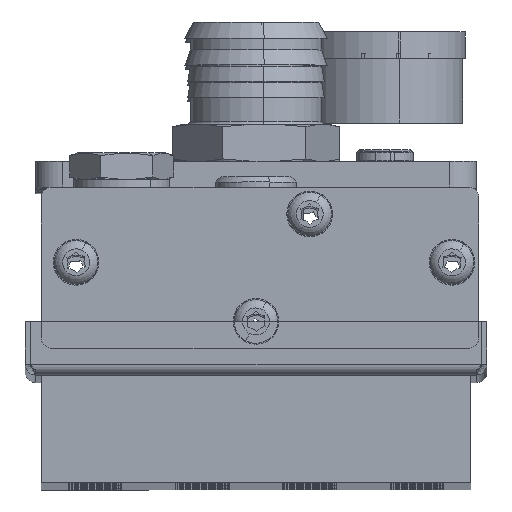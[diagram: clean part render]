
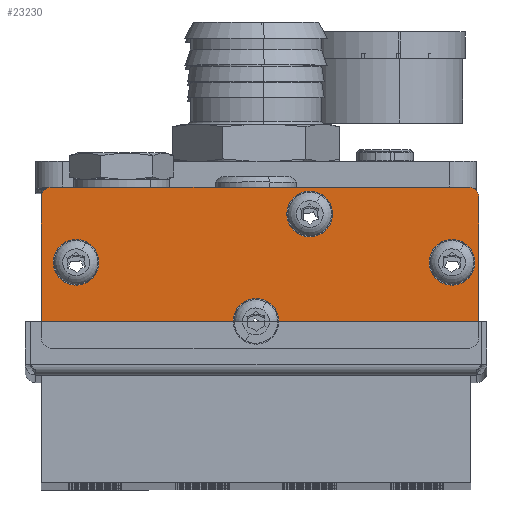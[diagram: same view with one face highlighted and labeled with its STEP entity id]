
A CAD part, top view. The second image highlights one B-rep face of the part: STEP entity #23230.
In plain terms, the highlighted planar face has unit normal (0, 0, 1).
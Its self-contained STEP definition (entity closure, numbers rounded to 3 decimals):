
#17967 = CARTESIAN_POINT ( 'NONE',  ( -7.736, 48.338, 382.07 ) ) ;
#18008 = CARTESIAN_POINT ( 'NONE',  ( 28.014, 51.338, 382.07 ) ) ;
#18217 = CARTESIAN_POINT ( 'NONE',  ( 0.764, 48.338, 382.07 ) ) ;
#18241 = DIRECTION ( 'NONE',  ( 0., 0., 1. ) ) ;
#18242 = AXIS2_PLACEMENT_3D ( 'NONE', #18361, #18241, #18436 ) ;
#18243 = CIRCLE ( 'NONE', #18242, 2. ) ;
#18361 = CARTESIAN_POINT ( 'NONE',  ( -51.486, 51.338, 382.07 ) ) ;
#18436 = DIRECTION ( 'NONE',  ( -1., 0., 0. ) ) ;
#18456 = CARTESIAN_POINT ( 'NONE',  ( -42.736, 39.338, 382.07 ) ) ;
#18457 = CARTESIAN_POINT ( 'NONE',  ( 28.014, 25.338, 382.07 ) ) ;
#18459 = CARTESIAN_POINT ( 'NONE',  ( -53.486, 51.338, 382.07 ) ) ;
#18462 = CARTESIAN_POINT ( 'NONE',  ( -53.486, 25.338, 382.07 ) ) ;
#18517 = CARTESIAN_POINT ( 'NONE',  ( 18.764, 39.338, 382.07 ) ) ;
#18566 = CIRCLE ( 'NONE', #18760, 4.25 ) ;
#18632 = FACE_OUTER_BOUND ( 'NONE', #23097, .T. ) ;
#18633 = FACE_BOUND ( 'NONE', #23094, .T. ) ;
#18634 = FACE_BOUND ( 'NONE', #23237, .T. ) ;
#18647 = DIRECTION ( 'NONE',  ( -1., 0., 0. ) ) ;
#18655 = DIRECTION ( 'NONE',  ( 1., 0., 0. ) ) ;
#18657 = DIRECTION ( 'NONE',  ( 0., 0., 1. ) ) ;
#18658 = CARTESIAN_POINT ( 'NONE',  ( -46.986, 39.338, 382.07 ) ) ;
#18709 = AXIS2_PLACEMENT_3D ( 'NONE', #18658, #18657, #18655 ) ;
#18711 = CIRCLE ( 'NONE', #18709, 4.25 ) ;
#18718 = CARTESIAN_POINT ( 'NONE',  ( -51.236, 39.338, 382.07 ) ) ;
#18756 = CARTESIAN_POINT ( 'NONE',  ( 27.264, 39.338, 382.07 ) ) ;
#18757 = DIRECTION ( 'NONE',  ( 1., 0., 0. ) ) ;
#18758 = DIRECTION ( 'NONE',  ( 0., 0., 1. ) ) ;
#18759 = CARTESIAN_POINT ( 'NONE',  ( 23.014, 39.338, 382.07 ) ) ;
#18760 = AXIS2_PLACEMENT_3D ( 'NONE', #18759, #18758, #18757 ) ;
#18763 = VECTOR ( 'NONE', #18647, 1000. ) ;
#18764 = CARTESIAN_POINT ( 'NONE',  ( -51.486, 53.338, 382.07 ) ) ;
#18766 = LINE ( 'NONE', #18764, #18763 ) ;
#18771 = CARTESIAN_POINT ( 'NONE',  ( -51.486, 53.338, 382.07 ) ) ;
#18781 = DIRECTION ( 'NONE',  ( 1., 0., 0. ) ) ;
#18782 = DIRECTION ( 'NONE',  ( 0., 0., 1. ) ) ;
#18783 = CARTESIAN_POINT ( 'NONE',  ( -13.486, 28.338, 382.07 ) ) ;
#18784 = AXIS2_PLACEMENT_3D ( 'NONE', #18783, #18782, #18781 ) ;
#18785 = CIRCLE ( 'NONE', #18784, 4.25 ) ;
#18786 = CARTESIAN_POINT ( 'NONE',  ( -9.236, 28.338, 382.07 ) ) ;
#18787 = CARTESIAN_POINT ( 'NONE',  ( -17.736, 28.338, 382.07 ) ) ;
#18827 = FACE_BOUND ( 'NONE', #23231, .T. ) ;
#18829 = FACE_BOUND ( 'NONE', #23234, .T. ) ;
#18831 = DIRECTION ( 'NONE',  ( -1., 0., 0. ) ) ;
#18832 = DIRECTION ( 'NONE',  ( 0., 0., -1. ) ) ;
#18833 = CARTESIAN_POINT ( 'NONE',  ( -51.486, 51.338, 382.07 ) ) ;
#18834 = AXIS2_PLACEMENT_3D ( 'NONE', #18833, #18832, #18831 ) ;
#18838 = PLANE ( 'NONE',  #18834 ) ;
#18908 = DIRECTION ( 'NONE',  ( 1., 0., 0. ) ) ;
#18909 = DIRECTION ( 'NONE',  ( 0., 0., 1. ) ) ;
#18910 = AXIS2_PLACEMENT_3D ( 'NONE', #18937, #18909, #18908 ) ;
#18911 = CIRCLE ( 'NONE', #18910, 4.25 ) ;
#18924 = DIRECTION ( 'NONE',  ( 1., 0., 0. ) ) ;
#18925 = DIRECTION ( 'NONE',  ( 0., 0., 1. ) ) ;
#18926 = CARTESIAN_POINT ( 'NONE',  ( 26.014, 51.338, 382.07 ) ) ;
#18927 = AXIS2_PLACEMENT_3D ( 'NONE', #18926, #18925, #18924 ) ;
#18928 = CIRCLE ( 'NONE', #18927, 2. ) ;
#18937 = CARTESIAN_POINT ( 'NONE',  ( -3.486, 48.338, 382.07 ) ) ;
#18962 = DIRECTION ( 'NONE',  ( 0., -1., 0. ) ) ;
#18963 = VECTOR ( 'NONE', #18962, 1000. ) ;
#18964 = CARTESIAN_POINT ( 'NONE',  ( -53.486, 51.338, 382.07 ) ) ;
#18965 = LINE ( 'NONE', #18964, #18963 ) ;
#18966 = DIRECTION ( 'NONE',  ( 0., 1., 0. ) ) ;
#18967 = VECTOR ( 'NONE', #18966, 1000. ) ;
#18968 = CARTESIAN_POINT ( 'NONE',  ( 28.014, 51.338, 382.07 ) ) ;
#18969 = LINE ( 'NONE', #18968, #18967 ) ;
#19018 = DIRECTION ( 'NONE',  ( 1., 0., 0. ) ) ;
#19019 = DIRECTION ( 'NONE',  ( 0., 0., 1. ) ) ;
#19020 = CARTESIAN_POINT ( 'NONE',  ( -46.986, 39.338, 382.07 ) ) ;
#19021 = AXIS2_PLACEMENT_3D ( 'NONE', #19020, #19019, #19018 ) ;
#19022 = CIRCLE ( 'NONE', #19021, 4.25 ) ;
#19027 = CARTESIAN_POINT ( 'NONE',  ( 26.014, 53.338, 382.07 ) ) ;
#19036 = DIRECTION ( 'NONE',  ( 1., 0., 0. ) ) ;
#19037 = DIRECTION ( 'NONE',  ( 0., 0., 1. ) ) ;
#19038 = CARTESIAN_POINT ( 'NONE',  ( -3.486, 48.338, 382.07 ) ) ;
#19039 = AXIS2_PLACEMENT_3D ( 'NONE', #19038, #19037, #19036 ) ;
#19040 = CIRCLE ( 'NONE', #19039, 4.25 ) ;
#19150 = DIRECTION ( 'NONE',  ( 1., 0., 0. ) ) ;
#19152 = DIRECTION ( 'NONE',  ( 0., 0., 1. ) ) ;
#19153 = CARTESIAN_POINT ( 'NONE',  ( 23.014, 39.338, 382.07 ) ) ;
#19155 = AXIS2_PLACEMENT_3D ( 'NONE', #19153, #19152, #19150 ) ;
#19156 = CIRCLE ( 'NONE', #19155, 4.25 ) ;
#19178 = DIRECTION ( 'NONE',  ( 1., 0., 0. ) ) ;
#19180 = DIRECTION ( 'NONE',  ( 0., 0., 1. ) ) ;
#19181 = CARTESIAN_POINT ( 'NONE',  ( 26.014, 25.338, 382.07 ) ) ;
#19183 = AXIS2_PLACEMENT_3D ( 'NONE', #19181, #19180, #19178 ) ;
#19184 = CIRCLE ( 'NONE', #19183, 2. ) ;
#19271 = DIRECTION ( 'NONE',  ( 1., 0., 0. ) ) ;
#19272 = DIRECTION ( 'NONE',  ( 0., 0., 1. ) ) ;
#19274 = CARTESIAN_POINT ( 'NONE',  ( -13.486, 28.338, 382.07 ) ) ;
#19275 = AXIS2_PLACEMENT_3D ( 'NONE', #19274, #19272, #19271 ) ;
#19276 = CIRCLE ( 'NONE', #19275, 4.25 ) ;
#19282 = DIRECTION ( 'NONE',  ( 1., 0., 0. ) ) ;
#19283 = VECTOR ( 'NONE', #19282, 1000. ) ;
#19284 = CARTESIAN_POINT ( 'NONE',  ( -51.486, 23.338, 382.07 ) ) ;
#19286 = LINE ( 'NONE', #19284, #19283 ) ;
#19388 = DIRECTION ( 'NONE',  ( -1., 0., 0. ) ) ;
#19390 = DIRECTION ( 'NONE',  ( 0., 0., 1. ) ) ;
#19392 = CARTESIAN_POINT ( 'NONE',  ( -51.486, 25.338, 382.07 ) ) ;
#19394 = AXIS2_PLACEMENT_3D ( 'NONE', #19392, #19390, #19388 ) ;
#19395 = CIRCLE ( 'NONE', #19394, 2. ) ;
#19448 = CARTESIAN_POINT ( 'NONE',  ( 26.014, 23.338, 382.07 ) ) ;
#19490 = CARTESIAN_POINT ( 'NONE',  ( -51.486, 23.338, 382.07 ) ) ;
#23094 = EDGE_LOOP ( 'NONE', ( #23095, #23096 ) ) ;
#23095 = ORIENTED_EDGE ( 'NONE', *, *, #23382, .F. ) ;
#23096 = ORIENTED_EDGE ( 'NONE', *, *, #23290, .F. ) ;
#23097 = EDGE_LOOP ( 'NONE', ( #23098, #23099, #23385, #23398, #23366, #23400, #23387, #23388 ) ) ;
#23098 = ORIENTED_EDGE ( 'NONE', *, *, #23157, .T. ) ;
#23099 = ORIENTED_EDGE ( 'NONE', *, *, #23352, .T. ) ;
#23126 = VERTEX_POINT ( 'NONE', #18008 ) ;
#23136 = VERTEX_POINT ( 'NONE', #17967 ) ;
#23157 = EDGE_CURVE ( 'NONE', #23246, #23169, #18243, .T. ) ;
#23168 = VERTEX_POINT ( 'NONE', #18462 ) ;
#23169 = VERTEX_POINT ( 'NONE', #18459 ) ;
#23171 = VERTEX_POINT ( 'NONE', #18457 ) ;
#23172 = VERTEX_POINT ( 'NONE', #18456 ) ;
#23183 = VERTEX_POINT ( 'NONE', #18217 ) ;
#23225 = VERTEX_POINT ( 'NONE', #18517 ) ;
#23230 = ADVANCED_FACE ( 'NONE', ( #18827, #18829, #18634, #18633, #18632 ), #18838, .F. ) ;
#23231 = EDGE_LOOP ( 'NONE', ( #23232, #23233 ) ) ;
#23232 = ORIENTED_EDGE ( 'NONE', *, *, #23326, .F. ) ;
#23233 = ORIENTED_EDGE ( 'NONE', *, *, #23275, .F. ) ;
#23234 = EDGE_LOOP ( 'NONE', ( #23235, #23236 ) ) ;
#23235 = ORIENTED_EDGE ( 'NONE', *, *, #23318, .F. ) ;
#23236 = ORIENTED_EDGE ( 'NONE', *, *, #23346, .F. ) ;
#23237 = EDGE_LOOP ( 'NONE', ( #23238, #23239 ) ) ;
#23238 = ORIENTED_EDGE ( 'NONE', *, *, #23403, .F. ) ;
#23239 = ORIENTED_EDGE ( 'NONE', *, *, #23261, .F. ) ;
#23246 = VERTEX_POINT ( 'NONE', #18771 ) ;
#23248 = EDGE_CURVE ( 'NONE', #23310, #23246, #18766, .T. ) ;
#23259 = VERTEX_POINT ( 'NONE', #18787 ) ;
#23261 = EDGE_CURVE ( 'NONE', #23259, #23262, #18785, .T. ) ;
#23262 = VERTEX_POINT ( 'NONE', #18786 ) ;
#23273 = VERTEX_POINT ( 'NONE', #18718 ) ;
#23275 = EDGE_CURVE ( 'NONE', #23273, #23172, #18711, .T. ) ;
#23290 = EDGE_CURVE ( 'NONE', #23225, #23291, #18566, .T. ) ;
#23291 = VERTEX_POINT ( 'NONE', #18756 ) ;
#23310 = VERTEX_POINT ( 'NONE', #19027 ) ;
#23312 = EDGE_CURVE ( 'NONE', #23126, #23310, #18928, .T. ) ;
#23318 = EDGE_CURVE ( 'NONE', #23183, #23136, #19040, .T. ) ;
#23326 = EDGE_CURVE ( 'NONE', #23172, #23273, #19022, .T. ) ;
#23346 = EDGE_CURVE ( 'NONE', #23136, #23183, #18911, .T. ) ;
#23350 = EDGE_CURVE ( 'NONE', #23171, #23126, #18969, .T. ) ;
#23352 = EDGE_CURVE ( 'NONE', #23169, #23168, #18965, .T. ) ;
#23365 = VERTEX_POINT ( 'NONE', #19448 ) ;
#23366 = ORIENTED_EDGE ( 'NONE', *, *, #23367, .T. ) ;
#23367 = EDGE_CURVE ( 'NONE', #23365, #23171, #19184, .T. ) ;
#23382 = EDGE_CURVE ( 'NONE', #23291, #23225, #19156, .T. ) ;
#23385 = ORIENTED_EDGE ( 'NONE', *, *, #23386, .T. ) ;
#23386 = EDGE_CURVE ( 'NONE', #23168, #23397, #19395, .T. ) ;
#23387 = ORIENTED_EDGE ( 'NONE', *, *, #23312, .T. ) ;
#23388 = ORIENTED_EDGE ( 'NONE', *, *, #23248, .T. ) ;
#23397 = VERTEX_POINT ( 'NONE', #19490 ) ;
#23398 = ORIENTED_EDGE ( 'NONE', *, *, #23399, .T. ) ;
#23399 = EDGE_CURVE ( 'NONE', #23397, #23365, #19286, .T. ) ;
#23400 = ORIENTED_EDGE ( 'NONE', *, *, #23350, .T. ) ;
#23403 = EDGE_CURVE ( 'NONE', #23262, #23259, #19276, .T. ) ;
